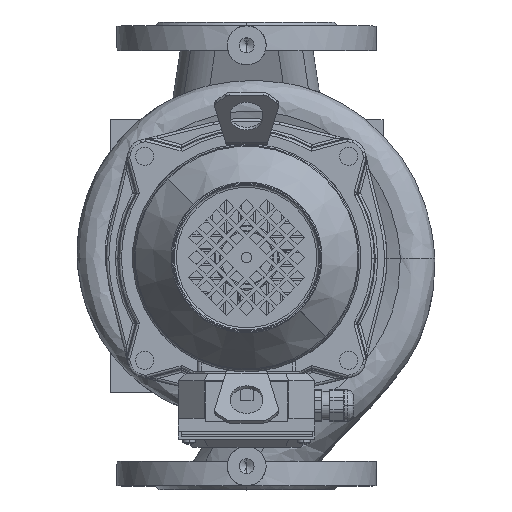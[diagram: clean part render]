
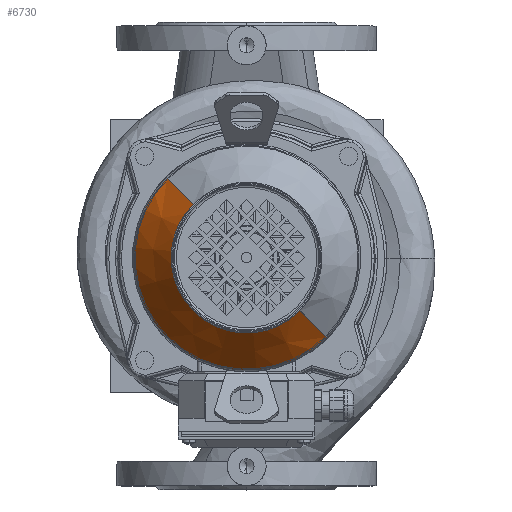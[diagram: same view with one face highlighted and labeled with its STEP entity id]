
A CAD part, top view. The second image highlights one B-rep face of the part: STEP entity #6730.
In plain terms, the highlighted conical face has half-angle 37 degrees and reference radius 58.108 mm.
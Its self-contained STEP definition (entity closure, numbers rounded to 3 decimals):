
#6730=ADVANCED_FACE('NONE',(#16138),#16139,.T.);
#16138=FACE_OUTER_BOUND('',#32916,.T.);
#16139=CONICAL_SURFACE('',#32917,58.108,0.646);
#32916=EDGE_LOOP('',(#50225,#50226,#50227,#50228));
#32917=AXIS2_PLACEMENT_3D('',#50229,#50230,#50231);
#50225=ORIENTED_EDGE('',*,*,#58955,.F.);
#50226=ORIENTED_EDGE('',*,*,#58953,.F.);
#50227=ORIENTED_EDGE('',*,*,#58956,.F.);
#50228=ORIENTED_EDGE('',*,*,#58957,.T.);
#50229=CARTESIAN_POINT('',(0.0,96.403,0.0));
#50230=DIRECTION('',(-0.0,-1.0,-0.0));
#50231=DIRECTION('',(0.0,0.0,-1.0));
#58953=EDGE_CURVE('NONE',#72081,#72083,#72084,.T.);
#58955=EDGE_CURVE('',#72083,#72086,#72087,.T.);
#58956=EDGE_CURVE('',#72088,#72081,#72089,.T.);
#58957=EDGE_CURVE('NONE',#72088,#72086,#72090,.T.);
#72081=VERTEX_POINT('',#95254);
#72083=VERTEX_POINT('NONE',#95256);
#72084=CIRCLE('',#95257,58.108);
#72086=VERTEX_POINT('NONE',#95259);
#72087=LINE('',#95260,#95261);
#72088=VERTEX_POINT('',#95262);
#72089=LINE('',#95263,#95264);
#72090=CIRCLE('',#95265,86.592);
#95254=CARTESIAN_POINT('',(0.,96.403,58.108));
#95256=CARTESIAN_POINT('',(0.,96.403,-58.108));
#95257=AXIS2_PLACEMENT_3D('',#106137,#106138,#106139);
#95259=CARTESIAN_POINT('',(0.0,58.603,-86.592));
#95260=CARTESIAN_POINT('',(0.,96.403,-58.108));
#95261=VECTOR('',#106143,1.0);
#95262=CARTESIAN_POINT('',(0.,58.603,86.592));
#95263=CARTESIAN_POINT('',(0.,96.403,58.108));
#95264=VECTOR('',#106144,1.0);
#95265=AXIS2_PLACEMENT_3D('',#106145,#106146,#106147);
#106137=CARTESIAN_POINT('',(0.0,96.403,0.0));
#106138=DIRECTION('',(-0.0,1.0,0.0));
#106139=DIRECTION('',(0.0,0.0,1.0));
#106143=DIRECTION('',(0.,-0.799,-0.602));
#106144=DIRECTION('',(0.,0.799,-0.602));
#106145=CARTESIAN_POINT('',(0.0,58.603,0.0));
#106146=DIRECTION('',(-0.0,1.0,0.0));
#106147=DIRECTION('',(0.0,0.0,1.0));
